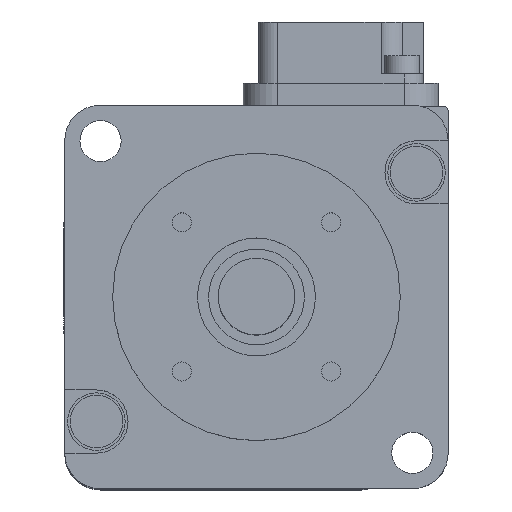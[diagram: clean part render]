
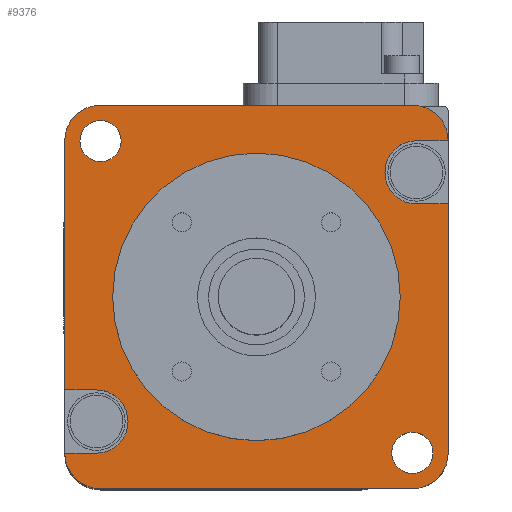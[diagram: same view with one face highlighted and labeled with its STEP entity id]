
A CAD part, top view. The second image highlights one B-rep face of the part: STEP entity #9376.
In plain terms, the highlighted planar face has unit normal (0, 0, 1).
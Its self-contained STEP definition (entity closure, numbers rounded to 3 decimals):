
#1481=DIRECTION('',(0.,1.,0.));
#1482=VECTOR('',#1481,26.);
#1483=CARTESIAN_POINT('',(-20.,-9.7,80.5));
#1484=LINE('',#1483,#1482);
#1563=DIRECTION('',(1.,0.,0.));
#1564=VECTOR('',#1563,32.6);
#1565=CARTESIAN_POINT('',(-16.3,20.,80.5));
#1566=LINE('',#1565,#1564);
#1587=DIRECTION('',(0.,-1.,0.));
#1588=VECTOR('',#1587,26.);
#1589=CARTESIAN_POINT('',(20.,9.7,80.5));
#1590=LINE('',#1589,#1588);
#1669=CARTESIAN_POINT('',(-16.3,-16.3,80.5));
#1670=DIRECTION('',(0.,0.,1.));
#1671=DIRECTION('',(-1.,0.,0.));
#1672=AXIS2_PLACEMENT_3D('',#1669,#1670,#1671);
#1674=CARTESIAN_POINT('',(-16.7,-13.,80.5));
#1675=DIRECTION('',(0.,0.,-1.));
#1676=DIRECTION('',(0.,1.,0.));
#1677=AXIS2_PLACEMENT_3D('',#1674,#1675,#1676);
#1679=CARTESIAN_POINT('',(-16.3,16.3,80.5));
#1680=DIRECTION('',(0.,0.,1.));
#1681=DIRECTION('',(0.,1.,0.));
#1682=AXIS2_PLACEMENT_3D('',#1679,#1680,#1681);
#1684=CARTESIAN_POINT('',(16.3,16.3,80.5));
#1685=DIRECTION('',(0.,0.,1.));
#1686=DIRECTION('',(1.,0.,0.));
#1687=AXIS2_PLACEMENT_3D('',#1684,#1685,#1686);
#1689=CARTESIAN_POINT('',(16.7,13.,80.5));
#1690=DIRECTION('',(0.,0.,-1.));
#1691=DIRECTION('',(0.,-1.,0.));
#1692=AXIS2_PLACEMENT_3D('',#1689,#1690,#1691);
#1694=CARTESIAN_POINT('',(16.3,-16.3,80.5));
#1695=DIRECTION('',(0.,0.,1.));
#1696=DIRECTION('',(0.,-1.,0.));
#1697=AXIS2_PLACEMENT_3D('',#1694,#1695,#1696);
#1699=DIRECTION('',(1.,0.,0.));
#1700=VECTOR('',#1699,32.6);
#1701=CARTESIAN_POINT('',(-16.3,-20.,80.5));
#1702=LINE('',#1701,#1700);
#1703=CARTESIAN_POINT('',(0.,0.,80.5));
#1704=DIRECTION('',(0.,0.,-1.));
#1705=DIRECTION('',(0.,1.,0.));
#1706=AXIS2_PLACEMENT_3D('',#1703,#1704,#1705);
#1708=CARTESIAN_POINT('',(0.,0.,80.5));
#1709=DIRECTION('',(0.,0.,-1.));
#1710=DIRECTION('',(0.,-1.,0.));
#1711=AXIS2_PLACEMENT_3D('',#1708,#1709,#1710);
#1713=CARTESIAN_POINT('',(-16.263,16.263,80.5));
#1714=DIRECTION('',(0.,0.,-1.));
#1715=DIRECTION('',(-1.,0.,0.));
#1716=AXIS2_PLACEMENT_3D('',#1713,#1714,#1715);
#1718=CARTESIAN_POINT('',(-16.263,16.263,80.5));
#1719=DIRECTION('',(0.,0.,-1.));
#1720=DIRECTION('',(1.,0.,0.));
#1721=AXIS2_PLACEMENT_3D('',#1718,#1719,#1720);
#1723=CARTESIAN_POINT('',(16.263,-16.263,80.5));
#1724=DIRECTION('',(0.,0.,-1.));
#1725=DIRECTION('',(-1.,0.,0.));
#1726=AXIS2_PLACEMENT_3D('',#1723,#1724,#1725);
#1728=CARTESIAN_POINT('',(16.263,-16.263,80.5));
#1729=DIRECTION('',(0.,0.,-1.));
#1730=DIRECTION('',(1.,0.,0.));
#1731=AXIS2_PLACEMENT_3D('',#1728,#1729,#1730);
#1737=DIRECTION('',(-1.,0.,0.));
#1738=VECTOR('',#1737,3.3);
#1739=CARTESIAN_POINT('',(-16.7,-16.3,80.5));
#1740=LINE('',#1739,#1738);
#1764=DIRECTION('',(1.,0.,0.));
#1765=VECTOR('',#1764,3.3);
#1766=CARTESIAN_POINT('',(-20.,-9.7,80.5));
#1767=LINE('',#1766,#1765);
#1834=DIRECTION('',(1.,0.,0.));
#1835=VECTOR('',#1834,3.3);
#1836=CARTESIAN_POINT('',(16.7,16.3,80.5));
#1837=LINE('',#1836,#1835);
#1869=DIRECTION('',(-1.,0.,0.));
#1870=VECTOR('',#1869,3.3);
#1871=CARTESIAN_POINT('',(20.,9.7,80.5));
#1872=LINE('',#1871,#1870);
#4601=CARTESIAN_POINT('',(0.,15.,80.5));
#4602=CARTESIAN_POINT('',(0.,-15.,80.5));
#4603=VERTEX_POINT('',#4601);
#4604=VERTEX_POINT('',#4602);
#4944=CARTESIAN_POINT('',(-16.3,-20.,80.5));
#4945=VERTEX_POINT('',#4944);
#4947=CARTESIAN_POINT('',(16.3,-20.,80.5));
#4949=VERTEX_POINT('',#4947);
#5072=CARTESIAN_POINT('',(-14.113,16.263,80.5));
#5073=VERTEX_POINT('',#5072);
#5074=CARTESIAN_POINT('',(-18.413,16.263,80.5));
#5075=VERTEX_POINT('',#5074);
#5076=CARTESIAN_POINT('',(18.413,-16.263,80.5));
#5077=VERTEX_POINT('',#5076);
#5078=CARTESIAN_POINT('',(14.113,-16.263,80.5));
#5079=VERTEX_POINT('',#5078);
#5082=CARTESIAN_POINT('',(-20.,-16.3,80.5));
#5083=VERTEX_POINT('',#5082);
#5084=CARTESIAN_POINT('',(-20.,16.3,80.5));
#5085=VERTEX_POINT('',#5084);
#5086=CARTESIAN_POINT('',(-20.,-9.7,80.5));
#5088=VERTEX_POINT('',#5086);
#5238=CARTESIAN_POINT('',(16.3,20.,80.5));
#5239=VERTEX_POINT('',#5238);
#5240=CARTESIAN_POINT('',(-16.3,20.,80.5));
#5241=VERTEX_POINT('',#5240);
#5431=CARTESIAN_POINT('',(20.,-16.3,80.5));
#5432=VERTEX_POINT('',#5431);
#5433=CARTESIAN_POINT('',(20.,9.7,80.5));
#5435=VERTEX_POINT('',#5433);
#5507=CARTESIAN_POINT('',(16.7,9.7,80.5));
#5508=VERTEX_POINT('',#5507);
#5511=CARTESIAN_POINT('',(16.7,16.3,80.5));
#5512=VERTEX_POINT('',#5511);
#5513=CARTESIAN_POINT('',(20.,16.3,80.5));
#5514=VERTEX_POINT('',#5513);
#5551=CARTESIAN_POINT('',(-16.7,-9.7,80.5));
#5552=VERTEX_POINT('',#5551);
#5553=CARTESIAN_POINT('',(-16.7,-16.3,80.5));
#5554=VERTEX_POINT('',#5553);
#9330=CARTESIAN_POINT('',(0.,0.,80.5));
#9331=DIRECTION('',(0.,0.,1.));
#9332=DIRECTION('',(0.,1.,0.));
#9333=AXIS2_PLACEMENT_3D('',#9330,#9331,#9332);
#9334=PLANE('',#9333);
#9335=ORIENTED_EDGE('',*,*,#8858,.F.);
#9337=ORIENTED_EDGE('',*,*,#9336,.F.);
#9339=ORIENTED_EDGE('',*,*,#9338,.F.);
#9341=ORIENTED_EDGE('',*,*,#9340,.F.);
#9342=ORIENTED_EDGE('',*,*,#8887,.T.);
#9344=ORIENTED_EDGE('',*,*,#9343,.F.);
#9345=ORIENTED_EDGE('',*,*,#9085,.T.);
#9346=ORIENTED_EDGE('',*,*,#9115,.F.);
#9348=ORIENTED_EDGE('',*,*,#9347,.F.);
#9350=ORIENTED_EDGE('',*,*,#9349,.F.);
#9352=ORIENTED_EDGE('',*,*,#9351,.F.);
#9353=ORIENTED_EDGE('',*,*,#9144,.T.);
#9354=ORIENTED_EDGE('',*,*,#9312,.F.);
#9355=ORIENTED_EDGE('',*,*,#8827,.F.);
#9356=EDGE_LOOP('',(#9335,#9337,#9339,#9341,#9342,#9344,#9345,#9346,#9348,#9350,
#9352,#9353,#9354,#9355));
#9357=FACE_OUTER_BOUND('',#9356,.F.);
#9359=ORIENTED_EDGE('',*,*,#9358,.F.);
#9361=ORIENTED_EDGE('',*,*,#9360,.F.);
#9362=EDGE_LOOP('',(#9359,#9361));
#9363=FACE_BOUND('',#9362,.F.);
#9365=ORIENTED_EDGE('',*,*,#9364,.F.);
#9367=ORIENTED_EDGE('',*,*,#9366,.F.);
#9368=EDGE_LOOP('',(#9365,#9367));
#9369=FACE_BOUND('',#9368,.F.);
#9371=ORIENTED_EDGE('',*,*,#9370,.F.);
#9373=ORIENTED_EDGE('',*,*,#9372,.F.);
#9374=EDGE_LOOP('',(#9371,#9373));
#9375=FACE_BOUND('',#9374,.F.);
#9376=ADVANCED_FACE('',(#9357,#9363,#9369,#9375),#9334,.T.);
#1673=CIRCLE('',#1672,3.7);
#1678=CIRCLE('',#1677,3.3);
#1683=CIRCLE('',#1682,3.7);
#1688=CIRCLE('',#1687,3.7);
#1693=CIRCLE('',#1692,3.3);
#1698=CIRCLE('',#1697,3.7);
#1707=CIRCLE('',#1706,15.);
#1712=CIRCLE('',#1711,15.);
#1717=CIRCLE('',#1716,2.15);
#1722=CIRCLE('',#1721,2.15);
#1727=CIRCLE('',#1726,2.15);
#1732=CIRCLE('',#1731,2.15);
#8827=EDGE_CURVE('',#4945,#4949,#1702,.T.);
#8858=EDGE_CURVE('',#5083,#4945,#1673,.T.);
#8887=EDGE_CURVE('',#5088,#5085,#1484,.T.);
#9085=EDGE_CURVE('',#5241,#5239,#1566,.T.);
#9115=EDGE_CURVE('',#5514,#5239,#1688,.T.);
#9144=EDGE_CURVE('',#5435,#5432,#1590,.T.);
#9312=EDGE_CURVE('',#4949,#5432,#1698,.T.);
#9336=EDGE_CURVE('',#5554,#5083,#1740,.T.);
#9338=EDGE_CURVE('',#5552,#5554,#1678,.T.);
#9340=EDGE_CURVE('',#5088,#5552,#1767,.T.);
#9343=EDGE_CURVE('',#5241,#5085,#1683,.T.);
#9347=EDGE_CURVE('',#5512,#5514,#1837,.T.);
#9349=EDGE_CURVE('',#5508,#5512,#1693,.T.);
#9351=EDGE_CURVE('',#5435,#5508,#1872,.T.);
#9358=EDGE_CURVE('',#4603,#4604,#1707,.T.);
#9360=EDGE_CURVE('',#4604,#4603,#1712,.T.);
#9364=EDGE_CURVE('',#5075,#5073,#1717,.T.);
#9366=EDGE_CURVE('',#5073,#5075,#1722,.T.);
#9370=EDGE_CURVE('',#5079,#5077,#1727,.T.);
#9372=EDGE_CURVE('',#5077,#5079,#1732,.T.);
